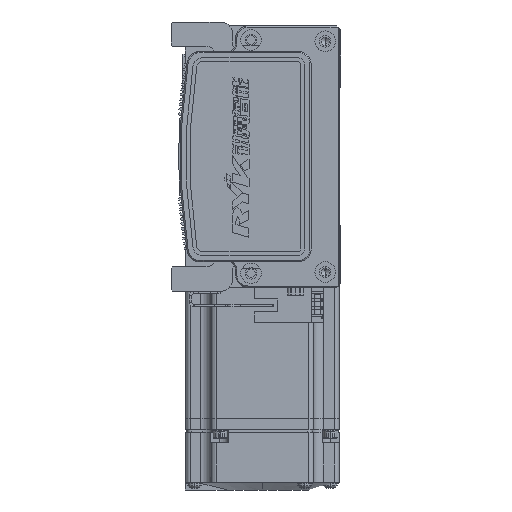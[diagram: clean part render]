
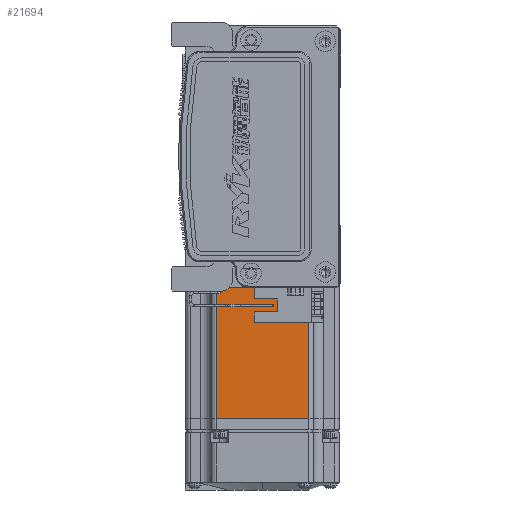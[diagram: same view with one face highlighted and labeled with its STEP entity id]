
A CAD part, left-side view. The second image highlights one B-rep face of the part: STEP entity #21694.
In plain terms, the highlighted planar face has unit normal (-1, 0, 0) as drawn and (0, 0, 1) by its records, which use the part's own axes.
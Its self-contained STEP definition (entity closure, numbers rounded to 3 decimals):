
#2838 = VERTEX_POINT ( 'NONE', #3962 ) ;
#3962 = CARTESIAN_POINT ( 'NONE',  ( -70.95, -18., 30. ) ) ;
#5135 = LINE ( 'NONE', #15411, #25392 ) ;
#5244 = DIRECTION ( 'NONE',  ( 0., -1., 0. ) ) ;
#7712 = DIRECTION ( 'NONE',  ( 1., 0., 0. ) ) ;
#12549 = VECTOR ( 'NONE', #24437, 1000. ) ;
#13650 = LINE ( 'NONE', #15699, #38998 ) ;
#15411 = CARTESIAN_POINT ( 'NONE',  ( -70.95, 0., 30. ) ) ;
#15699 = CARTESIAN_POINT ( 'NONE',  ( -6.5, 18., 30. ) ) ;
#17551 = ORIENTED_EDGE ( 'NONE', *, *, #51182, .T. ) ;
#18602 = VERTEX_POINT ( 'NONE', #48469 ) ;
#21122 = EDGE_CURVE ( 'NONE', #31163, #18602, #13650, .T. ) ;
#21694 = ADVANCED_FACE ( 'NONE', ( #43893 ), #38649, .T. ) ;
#22359 = ORIENTED_EDGE ( 'NONE', *, *, #35019, .F. ) ;
#24437 = DIRECTION ( 'NONE',  ( 0., -1., 0. ) ) ;
#25392 = VECTOR ( 'NONE', #5244, 1000. ) ;
#26015 = VERTEX_POINT ( 'NONE', #35074 ) ;
#29059 = ORIENTED_EDGE ( 'NONE', *, *, #56504, .F. ) ;
#30239 = LINE ( 'NONE', #45934, #12549 ) ;
#31163 = VERTEX_POINT ( 'NONE', #39072 ) ;
#31379 = ORIENTED_EDGE ( 'NONE', *, *, #21122, .T. ) ;
#35019 = EDGE_CURVE ( 'NONE', #31163, #26015, #30239, .T. ) ;
#35074 = CARTESIAN_POINT ( 'NONE',  ( -7.75, -18., 30. ) ) ;
#38649 = PLANE ( 'NONE',  #66630 ) ;
#38998 = VECTOR ( 'NONE', #53419, 1000. ) ;
#39072 = CARTESIAN_POINT ( 'NONE',  ( -7.75, 18., 30. ) ) ;
#40732 = CARTESIAN_POINT ( 'NONE',  ( -6.5, -18., 30. ) ) ;
#40953 = DIRECTION ( 'NONE',  ( -1., 0., 0. ) ) ;
#41049 = EDGE_LOOP ( 'NONE', ( #22359, #31379, #17551, #29059 ) ) ;
#43893 = FACE_OUTER_BOUND ( 'NONE', #41049, .T. ) ;
#44741 = CARTESIAN_POINT ( 'NONE',  ( -6.5, -25., 30. ) ) ;
#45934 = CARTESIAN_POINT ( 'NONE',  ( -7.75, 0., 30. ) ) ;
#48469 = CARTESIAN_POINT ( 'NONE',  ( -70.95, 18., 30. ) ) ;
#48874 = VECTOR ( 'NONE', #40953, 1000. ) ;
#50663 = DIRECTION ( 'NONE',  ( 0., 0., 1. ) ) ;
#51182 = EDGE_CURVE ( 'NONE', #18602, #2838, #5135, .T. ) ;
#53419 = DIRECTION ( 'NONE',  ( -1., 0., 0. ) ) ;
#56433 = LINE ( 'NONE', #40732, #48874 ) ;
#56504 = EDGE_CURVE ( 'NONE', #26015, #2838, #56433, .T. ) ;
#66630 = AXIS2_PLACEMENT_3D ( 'NONE', #44741, #50663, #7712 ) ;
